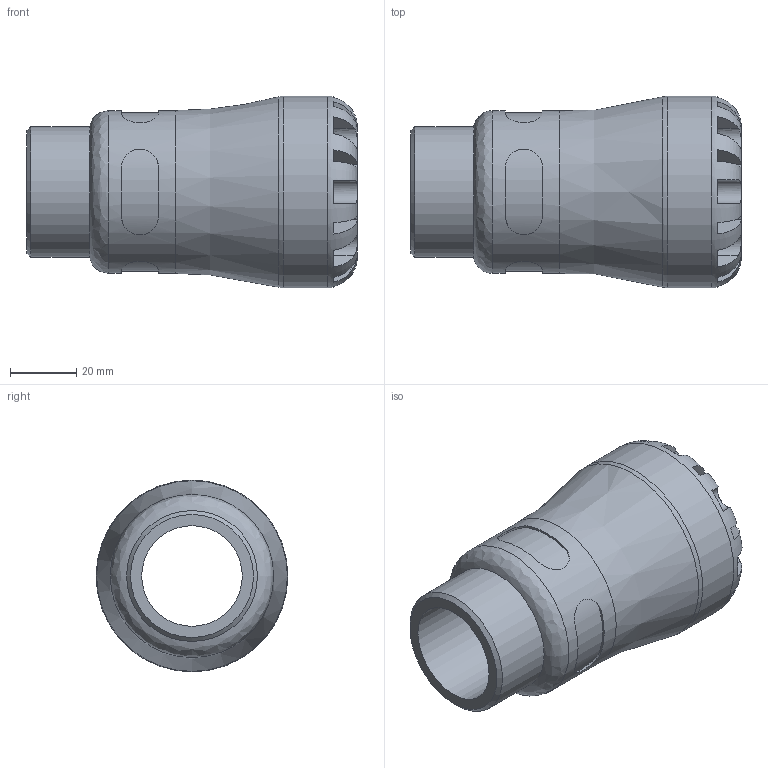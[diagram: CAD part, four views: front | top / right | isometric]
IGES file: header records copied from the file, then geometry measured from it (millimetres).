
Global section: file name: 107200032013_197200032013.ipt; native system: Autodesk Inventor 2015; preprocessor: unknown; author: KIM; date: 20170122.104931; units: millimetre
Bounding box: 100 x 58 x 58 mm (x, y, z)
Volume: 117412.4 mm3; surface area: 29261.8 mm2
Topology: 1 solids, 1 shells, 98 faces, 254 edges, 162 vertices
Faces by surface type: plane 59, revolution 23, cylinder 15, cone 1
Full cylindrical faces by diameter (mm): 39.592 x1, 49.3 x1, 58 x1
